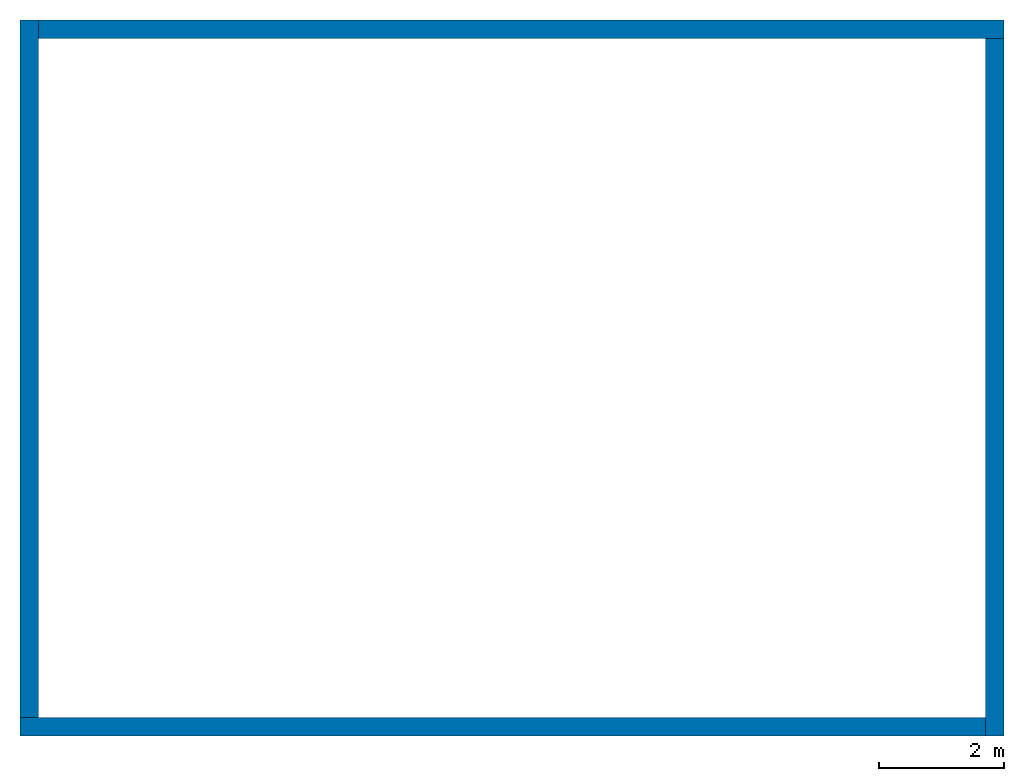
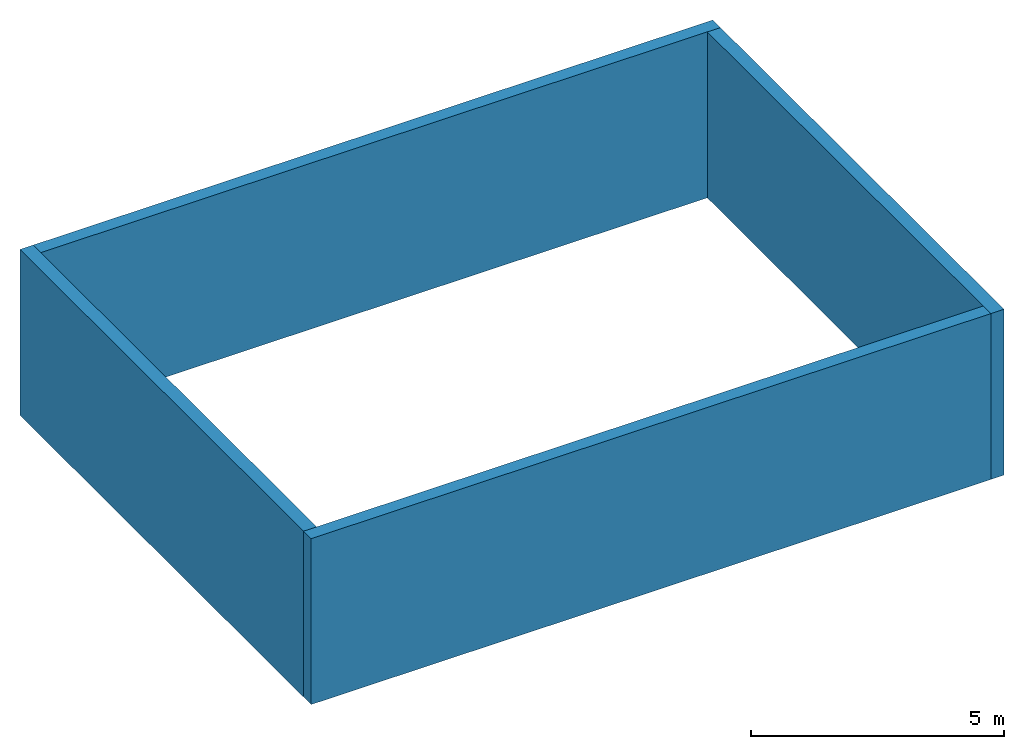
# One storey: 4 walls.
"""IFC2X3 building model written with IfcOpenShell, lengths in millimetres."""

from ifc_helpers import new_model, entity, si_unit, converted_unit, derived_unit, direction, frame, frame_2d, origin, place, context, subcontext, project, spatial, rectangle, extrude, material, layer, layer_set, layer_usage, type_object, element, save


model = new_model("IFC2X3")

# Units and contexts
model_context = context("Model", 3, precision=0.01, world=origin(), true_north=direction((6.12303176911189e-17, 1.0)))
body_context = subcontext(model_context, "Body", "Model", "MODEL_VIEW")
ifc_project = project(units=[si_unit("LENGTHUNIT", "METRE", prefix="MILLI"), si_unit("AREAUNIT", "SQUARE_METRE"), si_unit("VOLUMEUNIT", "CUBIC_METRE"), converted_unit("PLANEANGLEUNIT", "DEGREE", entity("IfcRatioMeasure", 0.0174532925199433), si_unit("PLANEANGLEUNIT", "RADIAN"), dimensions=[0, 0, 0, 0, 0, 0, 0]), si_unit("MASSUNIT", "GRAM", prefix="KILO"), si_unit("TIMEUNIT", "SECOND"), si_unit("FREQUENCYUNIT", "HERTZ"), si_unit("THERMODYNAMICTEMPERATUREUNIT", "KELVIN"), derived_unit("THERMALTRANSMITTANCEUNIT", [(si_unit("MASSUNIT", "GRAM", prefix="KILO"), 1), (si_unit("THERMODYNAMICTEMPERATUREUNIT", "KELVIN"), -1), (si_unit("TIMEUNIT", "SECOND"), -3)]), derived_unit("VOLUMETRICFLOWRATEUNIT", [(si_unit("LENGTHUNIT", "METRE"), 3), (si_unit("TIMEUNIT", "SECOND"), -1)]), si_unit("ELECTRICCURRENTUNIT", "AMPERE"), si_unit("ELECTRICVOLTAGEUNIT", "VOLT"), si_unit("POWERUNIT", "WATT")], contexts=[model_context])

# Site, building, storey
site_placement = place(None, origin())
site = spatial("IfcSite", under=ifc_project, at=site_placement, Name="Default", CompositionType="ELEMENT")
building_placement = place(site_placement, origin())
building = spatial("IfcBuilding", under=site, at=building_placement, CompositionType="ELEMENT")
storey_placement = place(building_placement, origin())
storey = spatial("IfcBuildingStorey", under=building, at=storey_placement, Name="00_begane grond", CompositionType="ELEMENT", Elevation=0.0)

# Walls
ifc_material = material(Name="Default")
ifc_layer = layer(ifc_material, 300.0)
ifc_layer_set = layer_set([ifc_layer], Name="Basic Wall:20_WA_wand_generiek_300")
ifc_layer_usage_1 = layer_usage(ifc_layer_set, "AXIS2", "NEGATIVE", 150.0)
wall_type = type_object("IfcWallType", Name="Basic Wall:20_WA_wand_generiek_300", PredefinedType="STANDARD", material=ifc_layer_set)
wall_1_placement = place(storey_placement, frame((-150.0, 0.0, 0.0)))
element("IfcWallStandardCase", 1, at=wall_1_placement, inside=storey, type_object=wall_type, material=ifc_layer_usage_1, Name="Basic Wall:20_WA_wand_generiek_300", ObjectType="Basic Wall:20_WA_wand_generiek_300", context=body_context, shape_type="SweptSolid", body=[
    extrude(rectangle(XDim=15500.0, YDim=300.0, at=frame_2d((7750.0, 0.0), x_axis=(-1.0, 0.0))), origin(), (0.0, 0.0, 1.0), 4000.0),
])
ifc_layer_usage_2 = layer_usage(ifc_layer_set, "AXIS2", "NEGATIVE", 150.0)
wall_2_placement = place(storey_placement, frame((0.0, 11350.0, 0.0), z_axis=(0.0, 0.0, 1.0), x_axis=(0.0, -1.0, 0.0)))
element("IfcWallStandardCase", 2, at=wall_2_placement, inside=storey, type_object=wall_type, material=ifc_layer_usage_2, Name="Basic Wall:20_WA_wand_generiek_300", ObjectType="Basic Wall:20_WA_wand_generiek_300", context=body_context, shape_type="SweptSolid", body=[
    extrude(rectangle(XDim=11200.0, YDim=300.0, at=frame_2d((5600.0, 0.0), x_axis=(-1.0, 0.0))), origin(), (0.0, 0.0, 1.0), 4000.0),
])
ifc_layer_usage_3 = layer_usage(ifc_layer_set, "AXIS2", "NEGATIVE", 150.0)
wall_3_placement = place(storey_placement, frame((15650.0, 11200.0, 0.0), z_axis=(0.0, 0.0, 1.0), x_axis=(-1.0, 0.0, 0.0)))
element("IfcWallStandardCase", 3, at=wall_3_placement, inside=storey, type_object=wall_type, material=ifc_layer_usage_3, Name="Basic Wall:20_WA_wand_generiek_300", ObjectType="Basic Wall:20_WA_wand_generiek_300", context=body_context, shape_type="SweptSolid", body=[
    extrude(rectangle(XDim=15500.0, YDim=300.000000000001, at=frame_2d((7750.0, 0.0), x_axis=(-1.0, 0.0))), origin(), (0.0, 0.0, 1.0), 4000.0),
])
ifc_layer_usage_4 = layer_usage(ifc_layer_set, "AXIS2", "NEGATIVE", 150.0)
wall_4_placement = place(storey_placement, frame((15500.0, -150.0, 0.0), z_axis=(0.0, 0.0, 1.0), x_axis=(0.0, 1.0, 0.0)))
element("IfcWallStandardCase", 4, at=wall_4_placement, inside=storey, type_object=wall_type, material=ifc_layer_usage_4, Name="Basic Wall:20_WA_wand_generiek_300", ObjectType="Basic Wall:20_WA_wand_generiek_300", context=body_context, shape_type="SweptSolid", body=[
    extrude(rectangle(XDim=11200.0, YDim=300.000000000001, at=frame_2d((5600.0, 0.0), x_axis=(-1.0, 0.0))), origin(), (0.0, 0.0, 1.0), 4000.0),
])

save(model, "model.ifc")
